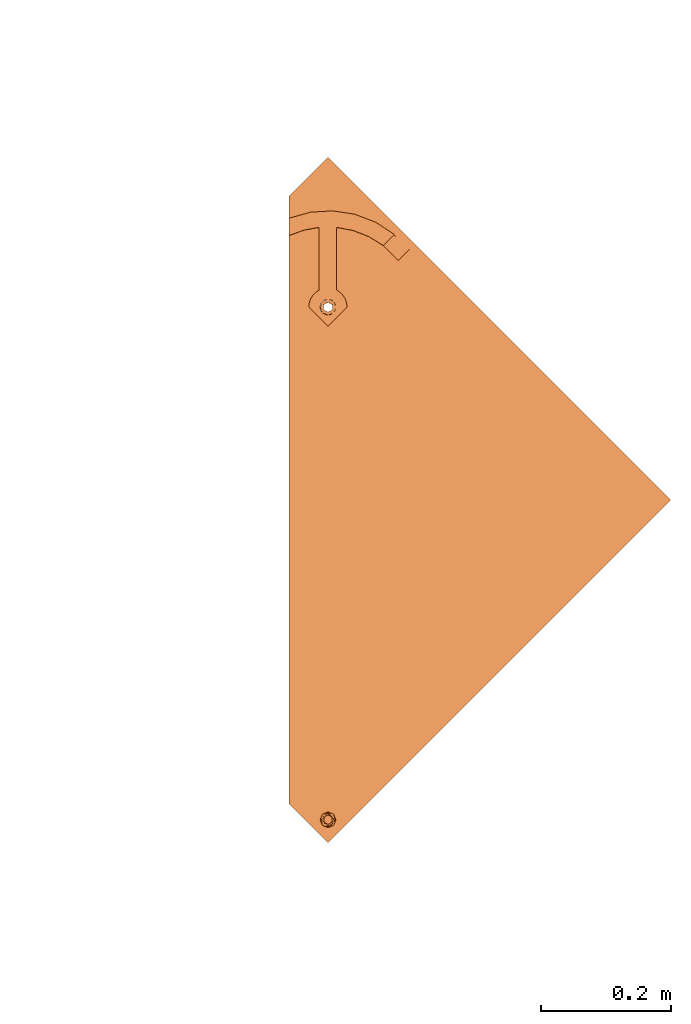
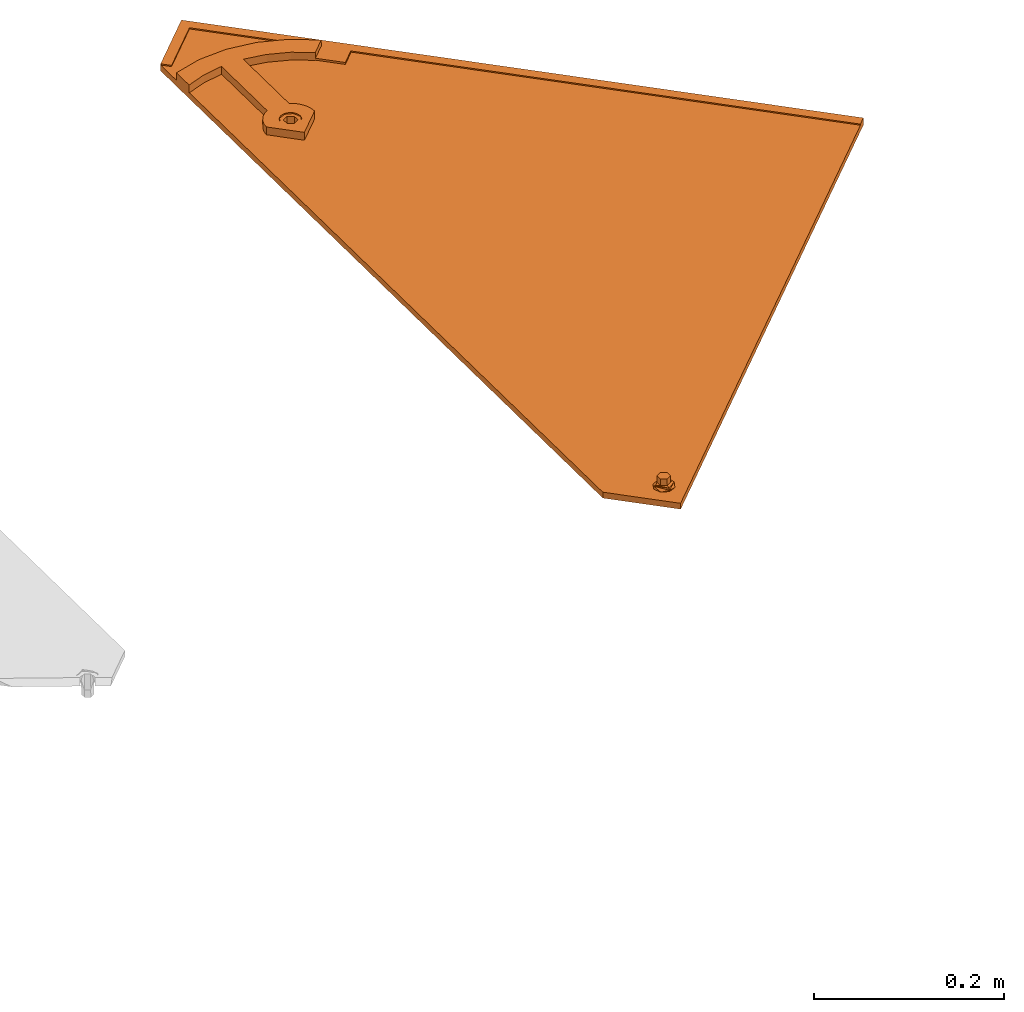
# One storey, part 110 of 151: 1 proxy.
"""IFC2X3 building model written with IfcOpenShell, lengths in millimetres."""

from ifc_helpers import new_model, entity, si_unit, converted_unit, derived_unit, direction, frame, origin, place, context, subcontext, project, spatial, faceted_brep, source, transform, mapped, material, material_list, type_object, type_shapes, element, save


model = new_model("IFC2X3")

# Units and contexts
model_context = context("Model", 3, precision=0.01, world=origin(), true_north=direction((6.12303176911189e-17, 1.0)))
body_context = subcontext(model_context, "Body", "Model", "MODEL_VIEW")
ifc_project = project(units=[si_unit("LENGTHUNIT", "METRE", prefix="MILLI"), si_unit("AREAUNIT", "SQUARE_METRE"), si_unit("VOLUMEUNIT", "CUBIC_METRE"), converted_unit("PLANEANGLEUNIT", "DEGREE", entity("IfcRatioMeasure", 0.0174532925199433), si_unit("PLANEANGLEUNIT", "RADIAN"), dimensions=[0, 0, 0, 0, 0, 0, 0]), si_unit("MASSUNIT", "GRAM", prefix="KILO"), derived_unit("MASSDENSITYUNIT", [(si_unit("MASSUNIT", "GRAM", prefix="KILO"), 1), (si_unit("LENGTHUNIT", "METRE"), -3)]), si_unit("TIMEUNIT", "SECOND"), si_unit("FREQUENCYUNIT", "HERTZ"), si_unit("THERMODYNAMICTEMPERATUREUNIT", "DEGREE_CELSIUS"), derived_unit("THERMALTRANSMITTANCEUNIT", [(si_unit("MASSUNIT", "GRAM", prefix="KILO"), 1), (si_unit("THERMODYNAMICTEMPERATUREUNIT", "KELVIN"), -1), (si_unit("TIMEUNIT", "SECOND"), -3)]), derived_unit("VOLUMETRICFLOWRATEUNIT", [(si_unit("LENGTHUNIT", "METRE"), 3), (si_unit("TIMEUNIT", "SECOND"), -1)]), si_unit("ELECTRICCURRENTUNIT", "AMPERE"), si_unit("ELECTRICVOLTAGEUNIT", "VOLT"), si_unit("POWERUNIT", "WATT"), si_unit("FORCEUNIT", "NEWTON", prefix="KILO"), si_unit("ILLUMINANCEUNIT", "LUX"), si_unit("LUMINOUSFLUXUNIT", "LUMEN"), si_unit("LUMINOUSINTENSITYUNIT", "CANDELA"), derived_unit("USERDEFINED", [(si_unit("MASSUNIT", "GRAM", prefix="KILO"), -1), (si_unit("LENGTHUNIT", "METRE"), -2), (si_unit("TIMEUNIT", "SECOND"), 3), (si_unit("LUMINOUSFLUXUNIT", "LUMEN"), 1)]), derived_unit("LINEARVELOCITYUNIT", [(si_unit("LENGTHUNIT", "METRE"), 1), (si_unit("TIMEUNIT", "SECOND"), -1)]), si_unit("PRESSUREUNIT", "PASCAL"), derived_unit("USERDEFINED", [(si_unit("LENGTHUNIT", "METRE"), -2), (si_unit("MASSUNIT", "GRAM", prefix="KILO"), 1), (si_unit("TIMEUNIT", "SECOND"), -2)])], contexts=[model_context])

# Site, building, storey
site_placement = place(None, origin())
site = spatial("IfcSite", under=ifc_project, at=site_placement, Name="Default", CompositionType="ELEMENT")
building_placement = place(site_placement, origin())
building = spatial("IfcBuilding", under=site, at=building_placement, CompositionType="ELEMENT")
storey_placement = place(building_placement, origin())
storey = spatial("IfcBuildingStorey", under=building, at=storey_placement, Name="Level 1", CompositionType="ELEMENT", Elevation=0.0)

# Proxy
ifc_material_1 = material(Name="Rubber - Sunstyle - Black")
ifc_material_2 = material(Name="Glass - Sunstyle - Tainted Black")
ifc_material_list_1 = material_list([ifc_material_1, ifc_material_2])
ifc_material_list_2 = material_list([ifc_material_1, ifc_material_2])
building_element_proxy_type = type_object("IfcBuildingElementProxyType", Name="Shingle Left - Black", PredefinedType="NOTDEFINED", material=ifc_material_list_2)
shared_shape = source(origin(), body_context, "Body", "Brep", [
    faceted_brep([(0.0, -484.792260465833, 4.00636906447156), (-5.77420283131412, -488.125530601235, 4.06219304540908), (-5.77420283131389, -487.757221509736, 26.0540623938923), (0.0, -484.423951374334, 25.9982384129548), (-5.77420283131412, -494.792070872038, 4.17384100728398), (-5.7742028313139, -494.42376178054, 26.1657103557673), (0.0, -498.12534100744, 4.22966498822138), (0.0, -497.757031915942, 26.2215343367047), (5.77420283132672, -494.792070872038, 4.17384100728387), (5.77420283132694, -494.42376178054, 26.1657103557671), (5.77420283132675, -488.125530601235, 4.06219304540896), (5.77420283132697, -487.757221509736, 26.0540623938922), (-8.60370416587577, -499.692989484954, 26.2539568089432), (0.0, -503.256260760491, 26.3136327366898), (-12.1674751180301, -491.090491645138, 26.1098863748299), (-8.60370416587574, -482.487993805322, 25.9658159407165), (0.0, -478.924722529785, 25.9061400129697), (8.60370416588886, -482.487993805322, 25.9658159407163), (12.1674751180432, -491.090491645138, 26.1098863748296), (8.60370416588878, -499.692989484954, 26.253956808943), (-11.324244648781, -488.795414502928, 28.4227283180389), (-9.75647455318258, -491.019476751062, 30.3502110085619), (0.0, -483.706401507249, 30.9829114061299), (0.0, -482.465903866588, 30.4025647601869), (0.0, -480.308353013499, 29.3931896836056), (0.0, -502.700216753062, 27.5886907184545), (0.0, -501.756640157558, 29.7523951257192), (0.0, -498.307264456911, 31.2274395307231), (0.0, -479.437758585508, 27.1991024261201), (-6.32324569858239, -494.657048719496, 31.1663074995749), (-6.32324569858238, -487.356617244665, 31.0440434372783), (11.3242446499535, -493.306834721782, 28.498283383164), (9.84888015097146, -492.093883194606, 30.2713428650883), (6.32324569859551, -487.356617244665, 31.0440434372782), (6.32324569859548, -494.657048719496, 31.1663074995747), (-6.32324569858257, -494.523020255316, 39.1691956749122), (0.0, -498.173235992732, 39.2303277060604), (0.0, -490.8728045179, 39.1080636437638), (-6.32324569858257, -487.222588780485, 39.0469316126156), (6.32324569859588, -494.523020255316, 39.1691956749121), (6.32324569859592, -487.222588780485, 39.0469316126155), (0.0, -483.572373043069, 38.9857995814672), (0.0, -491.458800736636, 4.11801702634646)], [[[0, 1, 2, 3]], [[1, 4, 5, 2]], [[4, 6, 7, 5]], [[6, 8, 9, 7]], [[8, 10, 11, 9]], [[10, 0, 3, 11]], [[12, 7, 13]], [[7, 12, 5]], [[14, 5, 12]], [[5, 14, 2]], [[15, 2, 14]], [[3, 2, 15]], [[15, 16, 3]], [[16, 17, 3]], [[11, 3, 17]], [[11, 17, 18]], [[9, 11, 18]], [[18, 19, 9]], [[7, 9, 19]], [[19, 13, 7]], [[20, 14, 12]], [[21, 22, 23, 24]], [[24, 20, 21]], [[25, 20, 12]], [[26, 27, 21]], [[15, 14, 20]], [[12, 13, 25]], [[20, 28, 15]], [[28, 20, 24]], [[21, 27, 29]], [[21, 29, 30]], [[26, 21, 20]], [[20, 25, 26]], [[15, 28, 16]], [[21, 30, 22]], [[31, 18, 17]], [[28, 31, 17]], [[32, 27, 26]], [[26, 31, 32]], [[26, 25, 31]], [[25, 19, 31]], [[17, 16, 28]], [[31, 19, 18]], [[24, 31, 28]], [[33, 34, 32]], [[23, 22, 33]], [[24, 32, 31]], [[27, 32, 34]], [[32, 23, 33]], [[19, 25, 13]], [[32, 24, 23]], [[35, 36, 37]], [[37, 38, 35]], [[36, 39, 37]], [[40, 37, 39]], [[37, 40, 41]], [[37, 41, 38]], [[42, 6, 4]], [[4, 1, 42]], [[1, 0, 42]], [[42, 8, 6]], [[0, 10, 42]], [[8, 42, 10]], [[22, 30, 38, 41]], [[30, 29, 35, 38]], [[29, 27, 36, 35]], [[27, 34, 39, 36]], [[34, 33, 40, 39]], [[33, 22, 41, 40]]]),
    faceted_brep([(0.0, 284.339364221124, 20.2838091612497), (0.0, 288.838732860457, 20.2084559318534), (-8.60370416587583, 287.902635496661, 20.224133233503), (8.60370416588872, 287.902635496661, 20.2241332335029), (6.64022859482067, 292.671933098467, 20.1442593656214), (12.1674751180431, 296.505133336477, 20.0800627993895), (6.64022859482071, 300.338333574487, 20.0158662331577), (8.6037041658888, 305.107631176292, 19.9359923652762), (0.0, 304.171533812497, 19.9516696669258), (0.0, 308.670902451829, 19.8763164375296), (-8.60370416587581, 305.107631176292, 19.9359923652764), (-6.64022859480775, 300.338333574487, 20.0158662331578), (-12.1674751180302, 296.505133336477, 20.0800627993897), (-6.64022859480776, 292.671933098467, 20.1442593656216), (-6.64022823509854, 300.070410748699, 4.01810959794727), (0.0, 303.90361077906, 3.95391303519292), (-6.64022823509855, 292.404010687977, 4.14650272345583), (0.0, 288.570810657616, 4.21069928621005), (6.64022823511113, 292.404010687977, 4.1465027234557), (6.64022823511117, 300.070410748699, 4.01810959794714), (-8.603704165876, 287.634712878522, 4.22637659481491), (0.0, 284.071441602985, 4.28605252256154), (-12.1674751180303, 296.237210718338, 4.08230616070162), (-8.60370416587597, 304.839708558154, 3.93823572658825), (0.0, 308.402979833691, 3.87855979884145), (8.60370416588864, 304.839708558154, 3.93823572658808), (12.1674751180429, 296.237210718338, 4.08230616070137), (8.60370416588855, 287.634712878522, 4.22637659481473)], [[[0, 1, 2]], [[1, 0, 3]], [[3, 4, 1]], [[4, 3, 5]], [[6, 4, 5]], [[5, 7, 6]], [[7, 8, 6]], [[8, 7, 9]], [[8, 9, 10]], [[10, 11, 8]], [[12, 11, 10]], [[2, 13, 12]], [[12, 13, 11]], [[13, 2, 1]], [[8, 11, 14, 15]], [[11, 13, 16, 14]], [[13, 1, 17, 16]], [[1, 4, 18, 17]], [[4, 6, 19, 18]], [[6, 8, 15, 19]], [[20, 17, 21]], [[17, 20, 16]], [[22, 16, 20]], [[14, 16, 22]], [[23, 14, 22]], [[15, 14, 23]], [[23, 24, 15]], [[24, 25, 15]], [[19, 15, 25]], [[19, 25, 26]], [[26, 18, 19]], [[26, 27, 18]], [[17, 18, 27]], [[27, 21, 17]], [[24, 23, 10, 9]], [[10, 23, 22, 12]], [[20, 21, 0, 2]], [[20, 2, 12, 22]], [[21, 27, 3, 0]], [[3, 27, 26, 5]], [[25, 24, 9, 7]], [[25, 7, 5, 26]]]),
    faceted_brep([(518.309865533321, -8.21171787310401, 16.4411500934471), (526.794551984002, 0.272968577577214, 16.299052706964), (526.794551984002, 0.298086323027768, 17.798842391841), (518.309865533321, -8.18660012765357, 17.9409397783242), (0.0, 509.952813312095, 7.76318349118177), (-51.6190674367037, 458.348219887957, 8.62743202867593), (-60.1037538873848, 466.832906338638, 8.48533464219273), (0.0, 526.919807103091, 7.47902856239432), (0.0, 526.944924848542, 8.97881824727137), (-60.1037538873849, 466.858024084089, 9.98512432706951), (-51.6190674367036, 458.373337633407, 10.1272217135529), (0.0, 509.977931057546, 9.26297317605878)], [[[0, 1, 2, 3]], [[1, 0, 4, 5, 6, 7]], [[2, 1, 7, 8]], [[3, 2, 8, 9, 10, 11]], [[0, 3, 11, 4]], [[5, 10, 9, 6]], [[8, 7, 6, 9]], [[4, 11, 10, 5]]]),
    faceted_brep([(3.08877637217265, 308.328619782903, 11.1398870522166), (0.0, 526.91980710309, 7.47902856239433), (-60.1037538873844, 466.832906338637, 8.48533464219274), (5.98294783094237, 307.129982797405, 11.1599612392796), (-0.0170521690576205, 308.737452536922, 11.133040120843), (8.46822920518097, 305.223226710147, 11.1918946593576), (10.3752526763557, 302.738293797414, 11.2335111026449), (11.5740577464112, 299.844528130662, 11.2819744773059), (526.794551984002, 0.272968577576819, 16.299052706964), (11.9829478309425, 296.739135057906, 11.3339820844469), (11.5740577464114, 293.63374198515, 11.3859896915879), (10.3752526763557, 290.739976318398, 11.4344530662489), (8.46822920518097, 288.255043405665, 11.4760695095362), (5.9829478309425, 286.348287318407, 11.5080029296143), (3.08877637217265, 285.149650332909, 11.5280771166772), (2.03352718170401, -483.329519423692, 24.3981910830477), (-60.1037538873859, -466.286969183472, 24.112770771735), (-0.0170521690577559, 284.74081757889, 11.5349240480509), (-3.12288071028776, 285.149650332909, 11.5280771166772), (-6.01705216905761, 286.348287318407, 11.5080029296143), (-8.50233354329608, 288.255043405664, 11.4760695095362), (-10.409357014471, 290.739976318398, 11.4344530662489), (-11.6081620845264, 293.63374198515, 11.3859896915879), (-12.0170521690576, 296.739135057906, 11.3339820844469), (-11.6081620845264, 299.844528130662, 11.2819744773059), (-10.4093570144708, 302.738293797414, 11.2335111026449), (-8.50233354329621, 305.223226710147, 11.1918946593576), (-6.01705216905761, 307.129982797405, 11.1599612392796), (-3.12288071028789, 308.328619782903, 11.1398870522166), (-0.0370251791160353, -483.056964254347, 24.3936264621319), (-2.10757753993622, -483.329519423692, 24.3981910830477), (-4.03702517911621, -484.128610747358, 24.411573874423), (-5.69387942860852, -485.399781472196, 24.4328628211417), (-6.96522840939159, -487.056403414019, 24.4606071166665), (-7.76443178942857, -488.985580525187, 24.4929160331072), (-8.03702517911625, -491.055842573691, 24.5275877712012), (-7.76443178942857, -493.126104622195, 24.5622595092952), (-6.96522840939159, -495.055281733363, 24.5945684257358), (0.0, -526.373869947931, 25.1190768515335), (-5.69387942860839, -496.711903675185, 24.6223127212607), (-4.03702517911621, -497.983074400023, 24.6436016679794), (-2.10757753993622, -498.782165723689, 24.6569844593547), (-0.0370251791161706, -499.054720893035, 24.6615490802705), (2.03352718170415, -498.782165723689, 24.6569844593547), (3.96297482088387, -497.983074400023, 24.6436016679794), (5.61982907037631, -496.711903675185, 24.6223127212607), (6.89117805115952, -495.055281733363, 24.5945684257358), (7.6903814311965, -493.126104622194, 24.5622595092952), (3.96297482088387, -484.128610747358, 24.411573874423), (5.61982907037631, -485.399781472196, 24.4328628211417), (6.89117805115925, -487.056403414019, 24.4606071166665), (7.6903814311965, -488.985580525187, 24.4929160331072), (7.96297482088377, -491.055842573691, 24.5275877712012), (-60.1037538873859, -466.412557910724, 16.6138223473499), (-6.96522840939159, -487.181992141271, 16.9616586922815), (-7.7644317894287, -489.111169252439, 16.9939676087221), (-5.69387942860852, -485.525370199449, 16.9339143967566), (-8.03702517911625, -491.181431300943, 17.0286393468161), (-7.76443178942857, -493.251693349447, 17.0633110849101), (-6.96522840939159, -495.180870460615, 17.0956200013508), (0.0, -526.499458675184, 17.6201284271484), (-4.03702517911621, -484.254199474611, 16.9126254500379), (-2.10757753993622, -483.455108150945, 16.8992426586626), (-0.0370251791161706, -483.182552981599, 16.8946780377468), (2.03352718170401, -483.455108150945, 16.8992426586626), (3.08877637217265, 285.024061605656, 4.02912869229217), (-0.0170521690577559, 284.615228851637, 4.03597562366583), (-3.12288071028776, 285.024061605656, 4.02912869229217), (-6.01705216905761, 286.222698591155, 4.00905450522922), (-8.50233354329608, 288.129454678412, 3.97712108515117), (-10.409357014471, 290.614387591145, 3.93550464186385), (-11.6081620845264, 293.508153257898, 3.88704126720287), (-60.1037538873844, 466.707317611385, 0.986386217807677), (-12.0170521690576, 296.613546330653, 3.83503366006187), (-11.6081620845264, 299.718939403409, 3.78302605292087), (-10.4093570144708, 302.612705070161, 3.73456267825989), (-8.50233354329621, 305.097637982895, 3.69294623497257), (-6.01705216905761, 307.004394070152, 3.66101281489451), (-3.12288071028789, 308.203031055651, 3.64093862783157), (-0.0170521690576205, 308.61186380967, 3.63409169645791), (3.08877637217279, 308.203031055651, 3.64093862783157), (0.0, 526.794218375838, -0.0199198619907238), (5.98294783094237, 307.004394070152, 3.66101281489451), (8.46822920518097, 305.097637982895, 3.69294623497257), (10.3752526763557, 302.612705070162, 3.73456267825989), (11.5740577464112, 299.718939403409, 3.78302605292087), (526.794551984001, 0.147379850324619, 8.8001042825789), (3.96297482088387, -484.254199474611, 16.9126254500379), (5.61982907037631, -485.525370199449, 16.9339143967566), (7.6903814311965, -493.251693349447, 17.0633110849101), (7.96297482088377, -491.181431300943, 17.0286393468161), (7.6903814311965, -489.111169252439, 16.9939676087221), (6.89117805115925, -487.181992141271, 16.9616586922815), (5.9829478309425, 286.222698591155, 4.00905450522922), (8.46822920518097, 288.129454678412, 3.97712108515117), (11.9829478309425, 296.613546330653, 3.83503366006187), (11.5740577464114, 293.508153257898, 3.88704126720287), (10.3752526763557, 290.614387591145, 3.93550464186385), (-5.69387942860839, -496.837492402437, 17.1233642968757), (-4.03702517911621, -498.108663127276, 17.1446532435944), (-2.10757753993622, -498.907754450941, 17.1580360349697), (-0.0370251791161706, -499.180309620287, 17.1626006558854), (2.03352718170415, -498.907754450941, 17.1580360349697), (3.96297482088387, -498.108663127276, 17.1446532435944), (5.61982907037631, -496.837492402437, 17.1233642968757), (6.89117805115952, -495.180870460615, 17.0956200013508)], [[[0, 1, 2]], [[0, 3, 1]], [[4, 0, 2]], [[1, 3, 5]], [[6, 1, 5]], [[7, 1, 6]], [[7, 8, 1]], [[9, 8, 7]], [[8, 9, 10]], [[8, 10, 11]], [[11, 12, 8]], [[12, 13, 8]], [[13, 14, 8]], [[14, 15, 8]], [[14, 16, 15]], [[16, 14, 17]], [[16, 17, 18]], [[16, 18, 19]], [[20, 16, 19]], [[20, 21, 16]], [[21, 22, 16]], [[23, 2, 22]], [[2, 16, 22]], [[23, 24, 2]], [[25, 2, 24]], [[25, 26, 2]], [[26, 27, 2]], [[28, 2, 27]], [[4, 2, 28]], [[16, 29, 15]], [[29, 16, 30]], [[30, 16, 31]], [[16, 32, 31]], [[32, 16, 33]], [[33, 16, 34]], [[35, 34, 16]], [[35, 16, 36]], [[37, 36, 16]], [[16, 38, 37]], [[39, 37, 38]], [[40, 39, 38]], [[41, 40, 38]], [[38, 42, 41]], [[42, 38, 43]], [[44, 43, 38]], [[44, 38, 45]], [[46, 45, 38]], [[47, 46, 38]], [[47, 38, 8]], [[48, 8, 15]], [[48, 49, 8]], [[50, 8, 49]], [[51, 8, 50]], [[52, 47, 8]], [[52, 8, 51]], [[53, 54, 55]], [[54, 53, 56]], [[53, 55, 57]], [[57, 58, 53]], [[58, 59, 53]], [[53, 59, 60]], [[61, 56, 53]], [[62, 61, 53]], [[62, 53, 63]], [[64, 63, 53]], [[53, 65, 64]], [[65, 53, 66]], [[66, 53, 67]], [[67, 53, 68]], [[69, 68, 53]], [[70, 69, 53]], [[71, 70, 53]], [[71, 53, 72]], [[73, 71, 72]], [[74, 73, 72]], [[75, 74, 72]], [[76, 75, 72]], [[72, 77, 76]], [[78, 77, 72]], [[79, 78, 72]], [[79, 72, 80]], [[80, 72, 81]], [[82, 80, 81]], [[81, 83, 82]], [[83, 81, 84]], [[84, 81, 85]], [[86, 85, 81]], [[64, 86, 87]], [[88, 87, 86]], [[60, 89, 86]], [[90, 86, 89]], [[90, 91, 86]], [[91, 92, 86]], [[88, 86, 92]], [[65, 86, 64]], [[65, 93, 86]], [[93, 94, 86]], [[86, 95, 85]], [[95, 86, 96]], [[97, 96, 86]], [[97, 86, 94]], [[98, 60, 59]], [[98, 99, 60]], [[99, 100, 60]], [[101, 60, 100]], [[60, 101, 102]], [[60, 102, 103]], [[103, 104, 60]], [[104, 105, 60]], [[105, 89, 60]], [[2, 1, 81, 72]], [[38, 16, 53, 60]], [[8, 38, 60, 86]], [[1, 8, 86, 81]], [[35, 57, 55, 34]], [[34, 55, 54, 33]], [[31, 32, 56, 61]], [[56, 32, 33, 54]], [[30, 31, 61, 62]], [[30, 62, 63, 29]], [[29, 63, 64, 15]], [[15, 64, 87, 48]], [[50, 49, 88, 92]], [[88, 49, 48, 87]], [[51, 50, 92, 91]], [[51, 91, 90, 52]], [[52, 90, 89, 47]], [[47, 89, 105, 46]], [[44, 45, 104, 103]], [[104, 45, 46, 105]], [[43, 44, 103, 102]], [[43, 102, 101, 42]], [[42, 101, 100, 41]], [[41, 100, 99, 40]], [[37, 39, 98, 59]], [[98, 39, 40, 99]], [[36, 37, 59, 58]], [[36, 58, 57, 35]], [[23, 73, 74, 24]], [[24, 74, 75, 25]], [[27, 26, 76, 77]], [[76, 26, 25, 75]], [[28, 27, 77, 78]], [[28, 78, 79, 4]], [[4, 79, 80, 0]], [[0, 80, 82, 3]], [[6, 5, 83, 84]], [[83, 5, 3, 82]], [[7, 6, 84, 85]], [[7, 85, 95, 9]], [[9, 95, 96, 10]], [[10, 96, 97, 11]], [[13, 12, 94, 93]], [[94, 12, 11, 97]], [[14, 13, 93, 65]], [[14, 65, 66, 17]], [[17, 66, 67, 18]], [[18, 67, 68, 19]], [[21, 20, 69, 70]], [[69, 20, 19, 68]], [[22, 21, 70, 71]], [[22, 71, 73, 23]], [[16, 2, 72, 53]]]),
    faceted_brep([(-60.2957264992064, 433.002673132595, 19.0533091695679), (-60.2957264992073, 406.276440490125, 19.5009070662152), (-37.4519584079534, 414.732964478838, 19.3592813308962), (-27.2461400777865, 442.315205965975, 18.8973474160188), (-13.4919726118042, 419.124350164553, 19.2857365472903), (7.02526451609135, 444.434715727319, 18.8618509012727), (13.1080273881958, 419.12435016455, 19.2857365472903), (13.1080273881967, 322.716549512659, 20.9003273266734), (-13.4919726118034, 322.716549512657, 20.9003273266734), (-0.191972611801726, 308.510747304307, 21.1382391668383), (-3.29780115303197, 308.101914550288, 21.145086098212), (-6.19197261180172, 306.90327756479, 21.1651602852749), (-18.8960787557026, 319.178501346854, 20.9595808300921), (-8.67725398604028, 304.996521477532, 21.197093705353), (-23.3966230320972, 314.545495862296, 21.0371721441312), (-10.584277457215, 302.511588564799, 21.2387101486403), (-26.776192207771, 309.041345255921, 21.1293529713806), (-11.7830825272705, 299.617822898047, 21.2871735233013), (-28.8715253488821, 302.931945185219, 21.231670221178), (-12.1919726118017, 296.512429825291, 21.3391811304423), (-29.5814006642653, 296.512429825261, 21.3391811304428), (-11.7830825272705, 293.407036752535, 21.3911887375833), (-10.5842774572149, 290.513271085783, 21.4396521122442), (-8.67725398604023, 288.028338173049, 21.4812685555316), (-0.191972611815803, 267.127122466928, 21.8313119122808), (-6.19197261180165, 286.121582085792, 21.5132019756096), (-3.2978011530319, 284.922945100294, 21.5332761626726), (-0.19197261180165, 284.514112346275, 21.5401230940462), (2.9138559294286, 284.922945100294, 21.5332761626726), (5.80802738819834, 286.121582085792, 21.5132019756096), (8.29330876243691, 288.028338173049, 21.4812685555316), (29.197455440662, 296.512429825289, 21.3391811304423), (10.2003322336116, 290.513271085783, 21.4396521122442), (11.3991373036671, 293.407036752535, 21.3911887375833), (11.8080273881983, 296.512429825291, 21.3391811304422), (28.4875801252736, 302.931945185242, 21.2316702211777), (11.3991373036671, 299.617822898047, 21.2871735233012), (26.3922469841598, 309.041345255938, 21.1293529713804), (10.2003322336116, 302.511588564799, 21.2387101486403), (23.0126778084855, 314.545495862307, 21.037172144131), (8.29330876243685, 304.996521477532, 21.197093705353), (18.5121335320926, 319.178501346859, 20.959580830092), (5.80802738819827, 306.90327756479, 21.1651602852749), (2.91385592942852, 308.101914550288, 21.145086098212), (40.9707248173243, 439.265481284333, 18.9484227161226), (38.5777701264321, 414.309469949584, 19.3663738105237), (73.0571986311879, 427.0409551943, 19.1531531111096), (62.7323605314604, 404.905836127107, 19.523861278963), (84.7524233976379, 391.232440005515, 19.7528566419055), (101.835599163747, 408.313220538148, 19.4667960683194), (-10.5842774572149, 290.345819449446, 11.4410542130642), (-29.5814006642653, 296.344978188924, 11.3405832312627), (-11.7830825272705, 293.239585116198, 11.3925908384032), (-8.67725398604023, 287.860886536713, 11.4826706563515), (-0.191972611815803, 266.959670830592, 11.8327140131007), (-6.19197261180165, 285.954130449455, 11.5146040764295), (-3.2978011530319, 284.755493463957, 11.5346782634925), (-0.19197261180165, 284.346660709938, 11.5415251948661), (2.9138559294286, 284.755493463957, 11.5346782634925), (5.80802738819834, 285.954130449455, 11.5146040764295), (8.29330876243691, 287.860886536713, 11.4826706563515), (29.197455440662, 296.344978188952, 11.3405832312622), (10.2003322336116, 290.345819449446, 11.4410542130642), (11.3991373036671, 293.239585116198, 11.3925908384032), (11.8080273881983, 296.344978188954, 11.3405832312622), (28.4875801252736, 302.764493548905, 11.2330723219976), (11.3991373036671, 299.45037126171, 11.2885756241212), (26.3922469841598, 308.873893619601, 11.1307550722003), (10.2003322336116, 302.344136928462, 11.2401122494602), (23.0126778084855, 314.378044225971, 11.038574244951), (8.29330876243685, 304.829069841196, 11.1984958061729), (18.5121335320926, 319.011049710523, 10.960982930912), (5.80802738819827, 306.735825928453, 11.1665623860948), (13.1080273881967, 322.549097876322, 10.9017294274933), (2.91385592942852, 307.934462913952, 11.1464881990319), (-0.191972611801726, 308.34329566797, 11.1396412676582), (-13.4919726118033, 322.54909787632, 10.9017294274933), (-3.29780115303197, 307.934462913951, 11.1464881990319), (-6.19197261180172, 306.735825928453, 11.1665623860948), (-18.8960787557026, 319.011049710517, 10.9609829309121), (-8.67725398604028, 304.829069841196, 11.1984958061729), (-23.3966230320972, 314.37804422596, 11.0385742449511), (-10.584277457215, 302.344136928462, 11.2401122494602), (-26.776192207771, 308.873893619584, 11.1307550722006), (-11.7830825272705, 299.45037126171, 11.2885756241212), (-28.8715253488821, 302.764493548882, 11.233072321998), (-12.1919726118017, 296.344978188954, 11.3405832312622), (-13.4919726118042, 418.956898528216, 9.28713864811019), (13.1080273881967, 418.956898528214, 9.28713864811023), (7.02526451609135, 444.267264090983, 8.86325300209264), (-27.2461400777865, 442.147754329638, 8.89874951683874), (-37.4519584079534, 414.565512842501, 9.36068343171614), (-60.2957264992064, 432.835221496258, 9.05471127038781), (-60.2957264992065, 406.108988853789, 9.5023091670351), (40.9707248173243, 439.098029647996, 8.94982481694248), (38.5777701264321, 414.142018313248, 9.36777591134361), (73.0571986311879, 426.873503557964, 9.15455521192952), (62.7323605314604, 404.738384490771, 9.5252633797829), (84.9699227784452, 391.282457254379, 9.75061668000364), (101.363550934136, 407.672574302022, 9.47612300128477), (101.835599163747, 408.145768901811, 9.46819816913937), (107.666988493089, 402.274283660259, 9.56653093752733), (113.684870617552, 396.559480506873, 9.66223967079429), (108.027097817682, 368.228515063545, 10.1367128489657), (125.024248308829, 385.223282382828, 9.85209278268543), (84.7524233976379, 391.064988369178, 9.75425874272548), (125.024248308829, 385.265145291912, 12.3517422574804), (113.684870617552, 396.601343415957, 12.1618891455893), (107.666988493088, 402.316146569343, 12.0661804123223), (101.362944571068, 407.715043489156, 11.975762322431), (84.9693798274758, 391.324863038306, 12.2502570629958), (108.027097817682, 368.270377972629, 12.6363623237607)], [[[0, 1, 2]], [[0, 2, 3]], [[2, 4, 3]], [[3, 4, 5]], [[5, 4, 6]], [[7, 6, 4]], [[7, 4, 8]], [[9, 7, 8]], [[9, 8, 10]], [[10, 8, 11]], [[12, 11, 8]], [[11, 12, 13]], [[14, 13, 12]], [[13, 14, 15]], [[15, 14, 16]], [[17, 15, 16]], [[18, 17, 16]], [[18, 19, 17]], [[19, 18, 20]], [[20, 21, 19]], [[20, 22, 21]], [[22, 20, 23]], [[23, 20, 24]], [[24, 25, 23]], [[26, 25, 24]], [[24, 27, 26]], [[28, 27, 24]], [[28, 24, 29]], [[30, 29, 24]], [[30, 24, 31]], [[31, 32, 30]], [[33, 32, 31]], [[31, 34, 33]], [[35, 34, 31]], [[34, 35, 36]], [[36, 35, 37]], [[36, 37, 38]], [[38, 37, 39]], [[39, 40, 38]], [[39, 41, 40]], [[7, 42, 41]], [[40, 41, 42]], [[42, 7, 43]], [[43, 7, 9]], [[44, 5, 6]], [[44, 6, 45]], [[45, 46, 44]], [[46, 45, 47]], [[47, 48, 46]], [[49, 46, 48]], [[50, 51, 52]], [[51, 50, 53]], [[54, 51, 53]], [[53, 55, 54]], [[56, 54, 55]], [[57, 54, 56]], [[57, 58, 54]], [[58, 59, 54]], [[60, 54, 59]], [[60, 61, 54]], [[60, 62, 61]], [[62, 63, 61]], [[63, 64, 61]], [[64, 65, 61]], [[65, 64, 66]], [[66, 67, 65]], [[68, 67, 66]], [[67, 68, 69]], [[69, 68, 70]], [[71, 69, 70]], [[71, 70, 72]], [[72, 73, 71]], [[72, 74, 73]], [[75, 73, 74]], [[76, 73, 75]], [[77, 76, 75]], [[76, 77, 78]], [[79, 76, 78]], [[78, 80, 79]], [[81, 79, 80]], [[81, 80, 82]], [[81, 82, 83]], [[82, 84, 83]], [[84, 85, 83]], [[86, 85, 84]], [[52, 51, 86]], [[85, 86, 51]], [[73, 76, 87]], [[88, 73, 87]], [[88, 87, 89]], [[90, 89, 87]], [[87, 91, 90]], [[91, 92, 90]], [[93, 92, 91]], [[88, 89, 94]], [[88, 94, 95]], [[96, 95, 94]], [[96, 97, 95]], [[98, 97, 96]], [[96, 99, 98]], [[96, 100, 99]], [[98, 99, 101]], [[102, 98, 101]], [[98, 102, 103]], [[104, 103, 102]], [[105, 97, 98]], [[8, 4, 87, 76]], [[12, 8, 76, 79]], [[14, 12, 79, 81]], [[81, 83, 16, 14]], [[18, 16, 83, 85]], [[20, 18, 85, 51]], [[24, 20, 51, 54]], [[31, 24, 54, 61]], [[35, 31, 61, 65]], [[37, 35, 65, 67]], [[67, 69, 39, 37]], [[41, 39, 69, 71]], [[7, 41, 71, 73]], [[6, 7, 73, 88]], [[46, 49, 100, 96]], [[44, 46, 96, 94]], [[94, 89, 5, 44]], [[3, 5, 89, 90]], [[3, 90, 92, 0]], [[19, 86, 84, 17]], [[17, 84, 82, 15]], [[11, 13, 80, 78]], [[82, 80, 13, 15]], [[10, 11, 78, 77]], [[75, 9, 10, 77]], [[43, 74, 72, 42]], [[42, 72, 70, 40]], [[36, 38, 68, 66]], [[70, 68, 38, 40]], [[34, 36, 66, 64]], [[43, 9, 75, 74]], [[34, 64, 63, 33]], [[33, 63, 62, 32]], [[29, 30, 60, 59]], [[62, 60, 30, 32]], [[28, 29, 59, 58]], [[57, 27, 28, 58]], [[26, 56, 55, 25]], [[25, 55, 53, 23]], [[21, 22, 50, 52]], [[53, 50, 22, 23]], [[19, 21, 52, 86]], [[26, 27, 57, 56]], [[106, 107, 108, 109, 110, 111]], [[107, 106, 104, 102]], [[106, 111, 103, 104]], [[107, 102, 101, 108]], [[101, 99, 109]], [[101, 109, 108]], [[111, 110, 98, 103]], [[48, 110, 109]], [[110, 48, 105]], [[49, 48, 109, 100]], [[105, 98, 110]], [[99, 100, 109]], [[93, 91, 2, 1]], [[87, 4, 2, 91]], [[88, 95, 45, 6]], [[95, 97, 47, 45]], [[97, 105, 48, 47]], [[1, 0, 92, 93]]]),
])
type_shapes(building_element_proxy_type, [shared_shape])
proxy_placement = place(storey_placement, frame((8750.98328870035, 12373.1387530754, 0.0)))
element("IfcBuildingElementProxy", 1, at=proxy_placement, inside=storey, type_object=building_element_proxy_type, material=ifc_material_list_1, Name="Roofing_Panels_SunStyle_Tile_Shingle-Left:Shingle Left - Black", ObjectType="Roofing_Panels_SunStyle_Tile_Shingle-Left:Shingle Left - Black", context=body_context, shape_type="MappedRepresentation", body=[
    mapped(shared_shape, transform((0.0, 0.0, 0.0), scale=1.0)),
])

save(model, "model.ifc")
